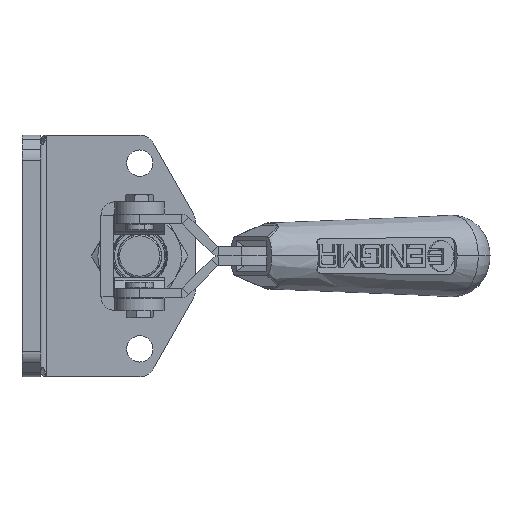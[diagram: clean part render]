
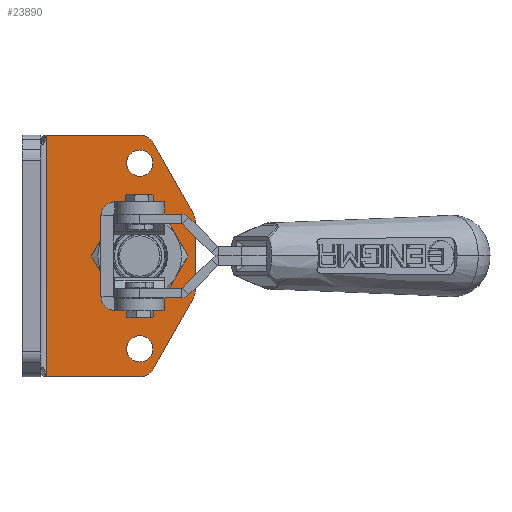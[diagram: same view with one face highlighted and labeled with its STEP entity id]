
A CAD part, left-side view. The second image highlights one B-rep face of the part: STEP entity #23890.
In plain terms, the highlighted planar face has unit normal (-1, 0, 0) as drawn and (1, 0, 0) by its records, which use the part's own axes.
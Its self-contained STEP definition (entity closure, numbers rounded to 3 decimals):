
#27 = EDGE_CURVE ( 'NONE', #17565, #8756, #19622, .T. ) ;
#77 = LINE ( 'NONE', #21224, #16637 ) ;
#86 = DIRECTION ( 'NONE',  ( 0., -1., 0. ) ) ;
#89 = DIRECTION ( 'NONE',  ( 0., 0., 1. ) ) ;
#195 = ORIENTED_EDGE ( 'NONE', *, *, #14071, .T. ) ;
#219 = DIRECTION ( 'NONE',  ( 1., 0., 0. ) ) ;
#319 = CARTESIAN_POINT ( 'NONE',  ( 35.85, 31.996, 0. ) ) ;
#431 = CARTESIAN_POINT ( 'NONE',  ( 35.85, 31.996, 12.1 ) ) ;
#491 = LINE ( 'NONE', #23755, #15787 ) ;
#753 = EDGE_CURVE ( 'NONE', #7118, #23945, #18225, .T. ) ;
#1041 = VERTEX_POINT ( 'NONE', #20625 ) ;
#1601 = DIRECTION ( 'NONE',  ( 0., -1., 0. ) ) ;
#1772 = ORIENTED_EDGE ( 'NONE', *, *, #27, .F. ) ;
#1846 = ORIENTED_EDGE ( 'NONE', *, *, #11194, .T. ) ;
#1867 = ORIENTED_EDGE ( 'NONE', *, *, #753, .F. ) ;
#2231 = ORIENTED_EDGE ( 'NONE', *, *, #7127, .T. ) ;
#2275 = DIRECTION ( 'NONE',  ( 0., 0., 1. ) ) ;
#2307 = DIRECTION ( 'NONE',  ( 0., -0.493, 0.87 ) ) ;
#2408 = VECTOR ( 'NONE', #1601, 1000. ) ;
#2757 = CARTESIAN_POINT ( 'NONE',  ( 35.85, 2., 39. ) ) ;
#3289 = EDGE_CURVE ( 'NONE', #1041, #14653, #23620, .T. ) ;
#3883 = DIRECTION ( 'NONE',  ( 0., 0., 1. ) ) ;
#4409 = CARTESIAN_POINT ( 'NONE',  ( 35.85, 44.996, 11.183 ) ) ;
#4445 = AXIS2_PLACEMENT_3D ( 'NONE', #4409, #219, #86 ) ;
#4521 = VERTEX_POINT ( 'NONE', #6389 ) ;
#5231 = CARTESIAN_POINT ( 'NONE',  ( 35.85, 44.996, -11.183 ) ) ;
#5248 = ORIENTED_EDGE ( 'NONE', *, *, #12723, .F. ) ;
#5288 = LINE ( 'NONE', #20283, #22500 ) ;
#5512 = ORIENTED_EDGE ( 'NONE', *, *, #14429, .F. ) ;
#5597 = EDGE_LOOP ( 'NONE', ( #1772, #5512 ) ) ;
#5860 = DIRECTION ( 'NONE',  ( 1., 0., 0. ) ) ;
#5865 = CARTESIAN_POINT ( 'NONE',  ( 35.85, 31.996, -12.1 ) ) ;
#5998 = PLANE ( 'NONE',  #19217 ) ;
#6117 = VERTEX_POINT ( 'NONE', #13956 ) ;
#6341 = DIRECTION ( 'NONE',  ( 1., 0., 0. ) ) ;
#6360 = AXIS2_PLACEMENT_3D ( 'NONE', #22409, #7389, #20290 ) ;
#6389 = CARTESIAN_POINT ( 'NONE',  ( 35.85, 49.996, 11.183 ) ) ;
#6449 = DIRECTION ( 'NONE',  ( 1., 0., 0. ) ) ;
#7046 = ORIENTED_EDGE ( 'NONE', *, *, #3289, .F. ) ;
#7072 = ORIENTED_EDGE ( 'NONE', *, *, #24577, .T. ) ;
#7088 = CARTESIAN_POINT ( 'NONE',  ( 35.85, 49.996, 12.5 ) ) ;
#7118 = VERTEX_POINT ( 'NONE', #22923 ) ;
#7127 = EDGE_CURVE ( 'NONE', #27083, #14653, #20658, .T. ) ;
#7314 = AXIS2_PLACEMENT_3D ( 'NONE', #319, #6341, #2275 ) ;
#7389 = DIRECTION ( 'NONE',  ( 1., 0., 0. ) ) ;
#7418 = AXIS2_PLACEMENT_3D ( 'NONE', #25672, #6449, #14982 ) ;
#7706 = CARTESIAN_POINT ( 'NONE',  ( 35.85, 49.347, 13.646 ) ) ;
#8512 = DIRECTION ( 'NONE',  ( -1., 0., 0. ) ) ;
#8706 = VERTEX_POINT ( 'NONE', #16524 ) ;
#8740 = DIRECTION ( 'NONE',  ( 0., 0., 1. ) ) ;
#8756 = VERTEX_POINT ( 'NONE', #23540 ) ;
#9319 = EDGE_LOOP ( 'NONE', ( #18246, #1867 ) ) ;
#9547 = AXIS2_PLACEMENT_3D ( 'NONE', #16502, #10059, #3883 ) ;
#9752 = AXIS2_PLACEMENT_3D ( 'NONE', #25583, #15304, #8740 ) ;
#9917 = ORIENTED_EDGE ( 'NONE', *, *, #12121, .T. ) ;
#10059 = DIRECTION ( 'NONE',  ( 1., 0., 0. ) ) ;
#10304 = VERTEX_POINT ( 'NONE', #19215 ) ;
#10554 = ORIENTED_EDGE ( 'NONE', *, *, #11710, .T. ) ;
#11194 = EDGE_CURVE ( 'NONE', #26374, #10304, #77, .T. ) ;
#11627 = EDGE_LOOP ( 'NONE', ( #19826, #12387, #10554, #195, #9917, #7072, #1846, #16589, #2231, #7046 ) ) ;
#11710 = EDGE_CURVE ( 'NONE', #6117, #8706, #5288, .T. ) ;
#12121 = EDGE_CURVE ( 'NONE', #18244, #4521, #22099, .T. ) ;
#12247 = CARTESIAN_POINT ( 'NONE',  ( 35.85, -35.004, 39. ) ) ;
#12340 = DIRECTION ( 'NONE',  ( 0., 0., 1. ) ) ;
#12387 = ORIENTED_EDGE ( 'NONE', *, *, #23937, .T. ) ;
#12433 = FACE_BOUND ( 'NONE', #9319, .T. ) ;
#12664 = CIRCLE ( 'NONE', #20722, 5. ) ;
#12705 = CARTESIAN_POINT ( 'NONE',  ( 35.85, 31.996, 34.25 ) ) ;
#12723 = EDGE_CURVE ( 'NONE', #14452, #19513, #13122, .T. ) ;
#12748 = CARTESIAN_POINT ( 'NONE',  ( 35.85, 49.996, -11.183 ) ) ;
#13122 = CIRCLE ( 'NONE', #7314, 12.1 ) ;
#13263 = DIRECTION ( 'NONE',  ( 1., 0., 0. ) ) ;
#13671 = CARTESIAN_POINT ( 'NONE',  ( 35.85, 32.081, 34. ) ) ;
#13778 = DIRECTION ( 'NONE',  ( 0., -1., 0. ) ) ;
#13819 = CIRCLE ( 'NONE', #20091, 5. ) ;
#13956 = CARTESIAN_POINT ( 'NONE',  ( 35.85, 36.432, -36.463 ) ) ;
#13978 = EDGE_CURVE ( 'NONE', #1041, #27512, #491, .T. ) ;
#14069 = DIRECTION ( 'NONE',  ( 0., 0., 1. ) ) ;
#14071 = EDGE_CURVE ( 'NONE', #8706, #18244, #12664, .T. ) ;
#14429 = EDGE_CURVE ( 'NONE', #8756, #17565, #21645, .T. ) ;
#14452 = VERTEX_POINT ( 'NONE', #5865 ) ;
#14532 = FACE_OUTER_BOUND ( 'NONE', #11627, .T. ) ;
#14653 = VERTEX_POINT ( 'NONE', #2757 ) ;
#14680 = EDGE_CURVE ( 'NONE', #10304, #27083, #23273, .T. ) ;
#14982 = DIRECTION ( 'NONE',  ( 0., 0., 1. ) ) ;
#15304 = DIRECTION ( 'NONE',  ( 1., 0., 0. ) ) ;
#15366 = CARTESIAN_POINT ( 'NONE',  ( 35.85, 32.081, 39. ) ) ;
#15787 = VECTOR ( 'NONE', #22070, 1000. ) ;
#16113 = DIRECTION ( 'NONE',  ( 1., 0., 0. ) ) ;
#16301 = EDGE_LOOP ( 'NONE', ( #22388, #5248 ) ) ;
#16502 = CARTESIAN_POINT ( 'NONE',  ( 35.85, 31.996, -30. ) ) ;
#16524 = CARTESIAN_POINT ( 'NONE',  ( 35.85, 49.347, -13.646 ) ) ;
#16589 = ORIENTED_EDGE ( 'NONE', *, *, #14680, .T. ) ;
#16637 = VECTOR ( 'NONE', #2307, 1000. ) ;
#17056 = DIRECTION ( 'NONE',  ( 0., -1., 0. ) ) ;
#17342 = EDGE_CURVE ( 'NONE', #23945, #7118, #18417, .T. ) ;
#17374 = AXIS2_PLACEMENT_3D ( 'NONE', #22593, #16113, #12340 ) ;
#17565 = VERTEX_POINT ( 'NONE', #25917 ) ;
#18225 = CIRCLE ( 'NONE', #9752, 4.25 ) ;
#18244 = VERTEX_POINT ( 'NONE', #12748 ) ;
#18246 = ORIENTED_EDGE ( 'NONE', *, *, #17342, .F. ) ;
#18252 = EDGE_CURVE ( 'NONE', #19513, #14452, #20853, .T. ) ;
#18309 = DIRECTION ( 'NONE',  ( 0., 0.493, 0.87 ) ) ;
#18417 = CIRCLE ( 'NONE', #6360, 4.25 ) ;
#18735 = CARTESIAN_POINT ( 'NONE',  ( 35.85, 32.081, -34. ) ) ;
#18764 = CIRCLE ( 'NONE', #4445, 5. ) ;
#19215 = CARTESIAN_POINT ( 'NONE',  ( 35.85, 36.432, 36.463 ) ) ;
#19217 = AXIS2_PLACEMENT_3D ( 'NONE', #27739, #8512, #25632 ) ;
#19513 = VERTEX_POINT ( 'NONE', #431 ) ;
#19622 = CIRCLE ( 'NONE', #17374, 4.25 ) ;
#19826 = ORIENTED_EDGE ( 'NONE', *, *, #13978, .T. ) ;
#20091 = AXIS2_PLACEMENT_3D ( 'NONE', #18735, #5860, #17056 ) ;
#20124 = AXIS2_PLACEMENT_3D ( 'NONE', #13671, #13263, #21834 ) ;
#20222 = DIRECTION ( 'NONE',  ( 1., 0., 0. ) ) ;
#20283 = CARTESIAN_POINT ( 'NONE',  ( 35.85, 49.996, -12.5 ) ) ;
#20290 = DIRECTION ( 'NONE',  ( 0., 0., 1. ) ) ;
#20625 = CARTESIAN_POINT ( 'NONE',  ( 35.85, 2., -39. ) ) ;
#20658 = LINE ( 'NONE', #12247, #2408 ) ;
#20718 = VECTOR ( 'NONE', #14069, 1000. ) ;
#20722 = AXIS2_PLACEMENT_3D ( 'NONE', #5231, #20222, #13778 ) ;
#20853 = CIRCLE ( 'NONE', #7418, 12.1 ) ;
#21224 = CARTESIAN_POINT ( 'NONE',  ( 35.85, 34.996, 39. ) ) ;
#21645 = CIRCLE ( 'NONE', #9547, 4.25 ) ;
#21834 = DIRECTION ( 'NONE',  ( 0., -1., 0. ) ) ;
#22070 = DIRECTION ( 'NONE',  ( 0., 1., 0. ) ) ;
#22099 = LINE ( 'NONE', #7088, #20718 ) ;
#22388 = ORIENTED_EDGE ( 'NONE', *, *, #18252, .F. ) ;
#22409 = CARTESIAN_POINT ( 'NONE',  ( 35.85, 31.996, 30. ) ) ;
#22500 = VECTOR ( 'NONE', #18309, 1000. ) ;
#22593 = CARTESIAN_POINT ( 'NONE',  ( 35.85, 31.996, -30. ) ) ;
#22923 = CARTESIAN_POINT ( 'NONE',  ( 35.85, 31.996, 25.75 ) ) ;
#23104 = FACE_BOUND ( 'NONE', #16301, .T. ) ;
#23273 = CIRCLE ( 'NONE', #20124, 5. ) ;
#23540 = CARTESIAN_POINT ( 'NONE',  ( 35.85, 31.996, -34.25 ) ) ;
#23620 = LINE ( 'NONE', #25323, #23803 ) ;
#23755 = CARTESIAN_POINT ( 'NONE',  ( 35.85, 34.996, -39. ) ) ;
#23803 = VECTOR ( 'NONE', #89, 1000. ) ;
#23876 = CARTESIAN_POINT ( 'NONE',  ( 35.85, 32.081, -39. ) ) ;
#23890 = ADVANCED_FACE ( 'NONE', ( #14532, #12433, #27458, #23104 ), #5998, .F. ) ;
#23937 = EDGE_CURVE ( 'NONE', #27512, #6117, #13819, .T. ) ;
#23945 = VERTEX_POINT ( 'NONE', #12705 ) ;
#24577 = EDGE_CURVE ( 'NONE', #4521, #26374, #18764, .T. ) ;
#25323 = CARTESIAN_POINT ( 'NONE',  ( 35.85, 2., 0. ) ) ;
#25583 = CARTESIAN_POINT ( 'NONE',  ( 35.85, 31.996, 30. ) ) ;
#25632 = DIRECTION ( 'NONE',  ( 0., 0., -1. ) ) ;
#25672 = CARTESIAN_POINT ( 'NONE',  ( 35.85, 31.996, 0. ) ) ;
#25917 = CARTESIAN_POINT ( 'NONE',  ( 35.85, 31.996, -25.75 ) ) ;
#26374 = VERTEX_POINT ( 'NONE', #7706 ) ;
#27083 = VERTEX_POINT ( 'NONE', #15366 ) ;
#27458 = FACE_BOUND ( 'NONE', #5597, .T. ) ;
#27512 = VERTEX_POINT ( 'NONE', #23876 ) ;
#27739 = CARTESIAN_POINT ( 'NONE',  ( 35.85, 31.996, 0. ) ) ;
